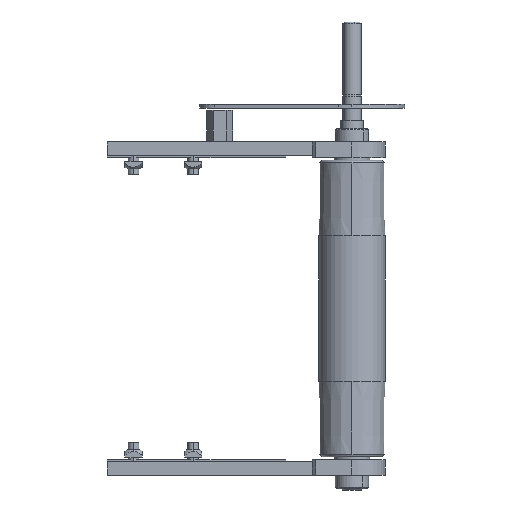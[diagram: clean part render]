
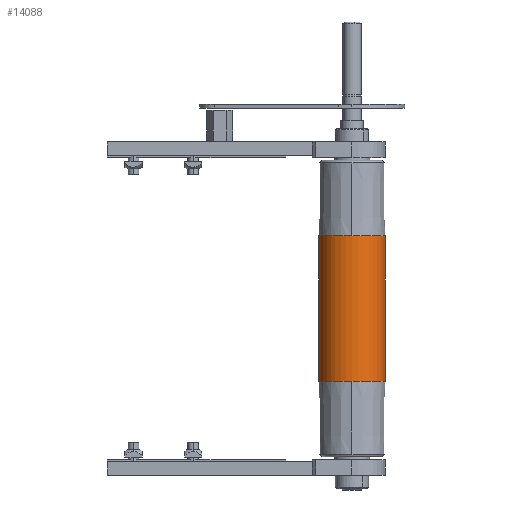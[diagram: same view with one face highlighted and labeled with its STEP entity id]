
A CAD part, front view. The second image highlights one B-rep face of the part: STEP entity #14088.
In plain terms, the highlighted cylindrical face has radius 25 mm (diameter 50 mm), a partial arc.
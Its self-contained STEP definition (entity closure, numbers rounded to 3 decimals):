
#1103 = ORIENTED_EDGE ( 'NONE', *, *, #14540, .T. ) ;
#1104 = ORIENTED_EDGE ( 'NONE', *, *, #14572, .T. ) ;
#1105 = ORIENTED_EDGE ( 'NONE', *, *, #14573, .T. ) ;
#1106 = ORIENTED_EDGE ( 'NONE', *, *, #14574, .F. ) ;
#1107 = ORIENTED_EDGE ( 'NONE', *, *, #14546, .F. ) ;
#1108 = ORIENTED_EDGE ( 'NONE', *, *, #14575, .F. ) ;
#1219 = EDGE_LOOP ( 'NONE', ( #1103, #1104, #1105, #1106, #1107, #1108 ) ) ;
#1711 = VERTEX_POINT ( 'NONE', #3831 ) ;
#1712 = VERTEX_POINT ( 'NONE', #3832 ) ;
#1718 = VERTEX_POINT ( 'NONE', #3838 ) ;
#1719 = VERTEX_POINT ( 'NONE', #3839 ) ;
#1742 = VERTEX_POINT ( 'NONE', #4445 ) ;
#1744 = VERTEX_POINT ( 'NONE', #4447 ) ;
#3831 = CARTESIAN_POINT ( 'NONE',  ( 55., 0., 25. ) ) ;
#3832 = CARTESIAN_POINT ( 'NONE',  ( 55., 25., 0. ) ) ;
#3838 = CARTESIAN_POINT ( 'NONE',  ( -55., 0., 25. ) ) ;
#3839 = CARTESIAN_POINT ( 'NONE',  ( -55., 25., 0. ) ) ;
#4445 = CARTESIAN_POINT ( 'NONE',  ( 55., 0., -25. ) ) ;
#4447 = CARTESIAN_POINT ( 'NONE',  ( -55., 0., -25. ) ) ;
#6398 = FACE_OUTER_BOUND ( 'NONE', #1219, .T. ) ;
#6406 = CYLINDRICAL_SURFACE ( 'NONE', #10194, 25. ) ;
#9820 = DIRECTION ( 'NONE',  ( 0., 0., 1. ) ) ;
#9822 = DIRECTION ( 'NONE',  ( -1., 0., 0. ) ) ;
#9824 = CARTESIAN_POINT ( 'NONE',  ( 110., 0., 0. ) ) ;
#10194 = AXIS2_PLACEMENT_3D ( 'NONE', #9824, #9822, #9820 ) ;
#10466 = AXIS2_PLACEMENT_3D ( 'NONE', #12632, #12633, #12634 ) ;
#10470 = AXIS2_PLACEMENT_3D ( 'NONE', #12649, #12650, #12651 ) ;
#10483 = AXIS2_PLACEMENT_3D ( 'NONE', #12715, #12716, #12717 ) ;
#10484 = AXIS2_PLACEMENT_3D ( 'NONE', #12718, #12719, #12720 ) ;
#11112 = CIRCLE ( 'NONE', #10466, 25. ) ;
#11120 = CIRCLE ( 'NONE', #10470, 25. ) ;
#11157 = CIRCLE ( 'NONE', #10483, 25. ) ;
#11160 = LINE ( 'NONE', #12712, #11162 ) ;
#11161 = CIRCLE ( 'NONE', #10484, 25. ) ;
#11162 = VECTOR ( 'NONE', #12707, 1000. ) ;
#11163 = LINE ( 'NONE', #12713, #11165 ) ;
#11165 = VECTOR ( 'NONE', #12714, 1000. ) ;
#12632 = CARTESIAN_POINT ( 'NONE',  ( 55., 0., 0. ) ) ;
#12633 = DIRECTION ( 'NONE',  ( -1., 0., 0. ) ) ;
#12634 = DIRECTION ( 'NONE',  ( 0., -1., 0. ) ) ;
#12649 = CARTESIAN_POINT ( 'NONE',  ( -55., 0., 0. ) ) ;
#12650 = DIRECTION ( 'NONE',  ( -1., 0., 0. ) ) ;
#12651 = DIRECTION ( 'NONE',  ( 0., -1., 0. ) ) ;
#12707 = DIRECTION ( 'NONE',  ( -1., 0., 0. ) ) ;
#12712 = CARTESIAN_POINT ( 'NONE',  ( 110., 0., -25. ) ) ;
#12713 = CARTESIAN_POINT ( 'NONE',  ( 110., 0., 25. ) ) ;
#12714 = DIRECTION ( 'NONE',  ( -1., 0., 0. ) ) ;
#12715 = CARTESIAN_POINT ( 'NONE',  ( 55., 0., 0. ) ) ;
#12716 = DIRECTION ( 'NONE',  ( -1., 0., 0. ) ) ;
#12717 = DIRECTION ( 'NONE',  ( 0., -1., 0. ) ) ;
#12718 = CARTESIAN_POINT ( 'NONE',  ( -55., 0., 0. ) ) ;
#12719 = DIRECTION ( 'NONE',  ( -1., 0., 0. ) ) ;
#12720 = DIRECTION ( 'NONE',  ( 0., -1., 0. ) ) ;
#14088 = ADVANCED_FACE ( 'NONE', ( #6398 ), #6406, .T. ) ;
#14540 = EDGE_CURVE ( 'NONE', #1711, #1712, #11112, .T. ) ;
#14546 = EDGE_CURVE ( 'NONE', #1718, #1719, #11120, .T. ) ;
#14572 = EDGE_CURVE ( 'NONE', #1712, #1742, #11157, .T. ) ;
#14573 = EDGE_CURVE ( 'NONE', #1742, #1744, #11160, .T. ) ;
#14574 = EDGE_CURVE ( 'NONE', #1719, #1744, #11161, .T. ) ;
#14575 = EDGE_CURVE ( 'NONE', #1711, #1718, #11163, .T. ) ;
